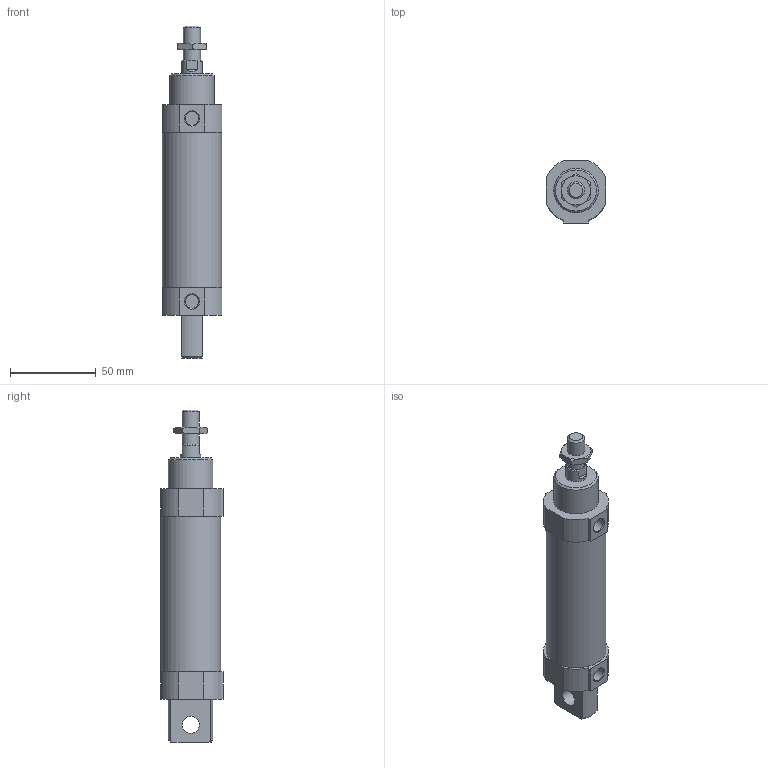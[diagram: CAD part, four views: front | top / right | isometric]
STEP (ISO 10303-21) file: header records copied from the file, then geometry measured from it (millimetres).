
FILE_DESCRIPTION((''),'2;1');
FILE_NAME('I:\3D電子目錄\氣缸\FDA\FDA\FDA\FDA30\FDA30x50.stp','2007-10-16T10:03:24',('66-2f-008'),(''),'Autodesk Inventor 11','Autodesk Inventor 11','');
FILE_SCHEMA(('AUTOMOTIVE_DESIGN { 1 0 10303 214 1 1 1 1 }'));
Length unit declared in the file: millimetre
Products named in the file (1): FDA30
Bounding box: 35 x 36.5 x 194 mm (x, y, z)
Volume: 140990.3 mm3; surface area: 21444.5 mm2
Topology: 1 solids, 1 shells, 79 faces, 184 edges, 114 vertices
Faces by surface type: plane 41, cone 20, cylinder 18
Full cylindrical faces by diameter (mm): 8 x2, 10 x3, 12 x1, 26 x1, 35 x1
Entity records: 2151 total; most frequent: CARTESIAN_POINT 426, DIRECTION 362, ORIENTED_EDGE 340, EDGE_CURVE 170, AXIS2_PLACEMENT_3D 144, VERTEX_POINT 112, EDGE_LOOP 100, FACE_OUTER_BOUND 79
